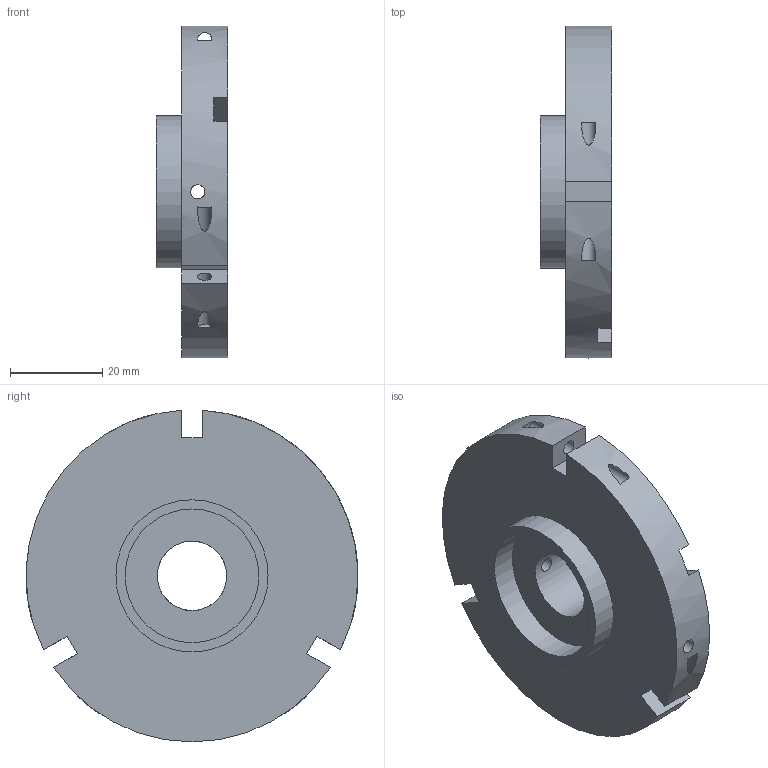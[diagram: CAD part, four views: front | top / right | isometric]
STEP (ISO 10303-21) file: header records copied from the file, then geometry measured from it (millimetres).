
FILE_DESCRIPTION(('Open CASCADE Model'),'2;1');
FILE_NAME('Open CASCADE Shape Model','2026-10-31T23:30:59',('Author'),( 'Open CASCADE'),'Open CASCADE STEP processor 7.9','Open CASCADE 7.9' ,'Unknown');
FILE_SCHEMA(('AUTOMOTIVE_DESIGN { 1 0 10303 214 1 1 1 1 }'));
Length unit declared in the file: millimetre
Products named in the file (1): Open CASCADE STEP translator 7.9 16
Bounding box: 15.5 x 72 x 71.93 mm (x, y, z)
Volume: 37746.1 mm3; surface area: 13002.5 mm2
Topology: 1 solids, 1 shells, 36 faces, 102 edges, 68 vertices
Faces by surface type: plane 22, cylinder 14
Full cylindrical faces by diameter (mm): 3.1 x8, 15.05 x1, 29 x1, 33 x1
Entity records: 4324 total; most frequent: CARTESIAN_POINT 2475, DIRECTION 270, ORIENTED_EDGE 204, PCURVE 204, DEFINITIONAL_REPRESENTATION 204, B_SPLINE_CURVE_WITH_KNOTS 128, LINE 122, VECTOR 122
